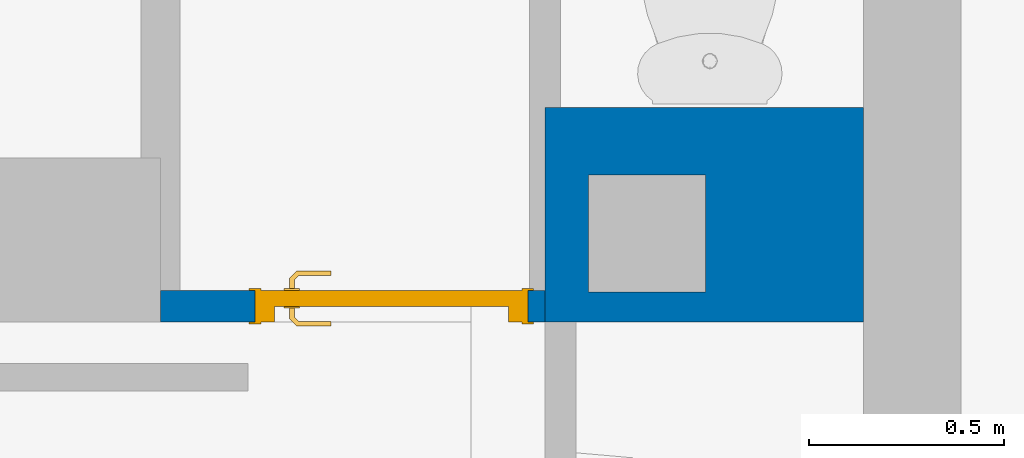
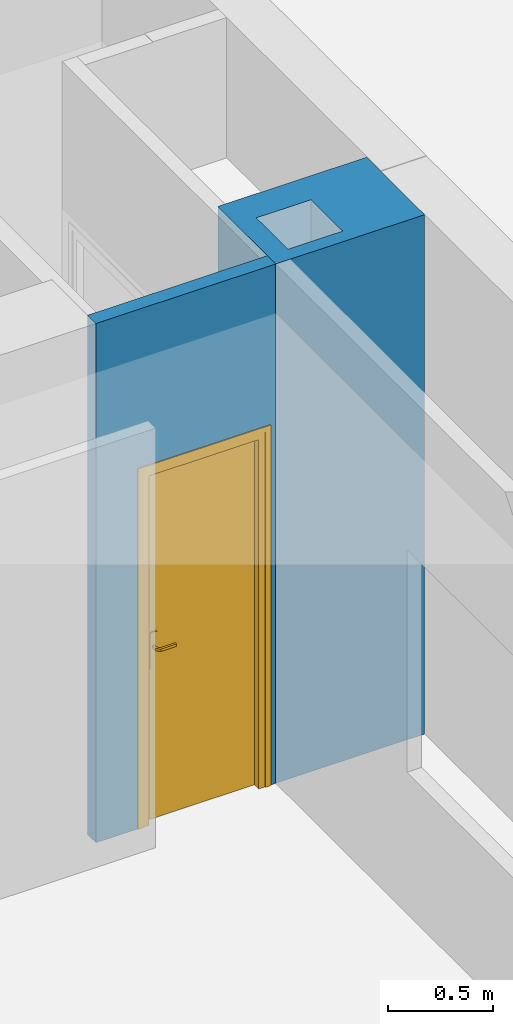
# One storey, part 46 of 97: 2 walls, 1 door, 2 openings.
"""IFC4 building model written with IfcOpenShell, lengths in metres."""

from ifc_helpers import new_model, entity, si_unit, converted_unit, derived_unit, direction, frame, origin, place, context, subcontext, project, spatial, indexed_curve, outline, extrude, polygons, source, transform, mapped, material, material_list, layer, layer_set, constituent, constituent_set, type_object, type_shapes, element, fill, save


model = new_model("IFC4")

# Units and contexts
model_context = context("Model", 3, precision=1e-05, world=origin(), true_north=direction((6.12303176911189e-17, 1.0)))
body_context = subcontext(model_context, "Body", "Model", "MODEL_VIEW")
ifc_project = project(units=[si_unit("LENGTHUNIT", "METRE"), si_unit("AREAUNIT", "SQUARE_METRE"), si_unit("VOLUMEUNIT", "CUBIC_METRE"), converted_unit("PLANEANGLEUNIT", "DEGREE", entity("IfcRatioMeasure", 0.0174532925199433), si_unit("PLANEANGLEUNIT", "RADIAN"), dimensions=[0, 0, 0, 0, 0, 0, 0]), si_unit("MASSUNIT", "GRAM", prefix="KILO"), derived_unit("MASSDENSITYUNIT", [(si_unit("MASSUNIT", "GRAM", prefix="KILO"), 1), (si_unit("LENGTHUNIT", "METRE"), -3)]), derived_unit("MOMENTOFINERTIAUNIT", [(si_unit("LENGTHUNIT", "METRE"), 4)]), si_unit("TIMEUNIT", "SECOND"), si_unit("FREQUENCYUNIT", "HERTZ"), si_unit("THERMODYNAMICTEMPERATUREUNIT", "DEGREE_CELSIUS"), derived_unit("THERMALTRANSMITTANCEUNIT", [(si_unit("MASSUNIT", "GRAM", prefix="KILO"), 1), (si_unit("THERMODYNAMICTEMPERATUREUNIT", "KELVIN"), -1), (si_unit("TIMEUNIT", "SECOND"), -3)]), derived_unit("VOLUMETRICFLOWRATEUNIT", [(si_unit("LENGTHUNIT", "METRE"), 3), (si_unit("TIMEUNIT", "SECOND"), -1)]), si_unit("ELECTRICCURRENTUNIT", "AMPERE"), si_unit("ELECTRICVOLTAGEUNIT", "VOLT"), si_unit("POWERUNIT", "WATT"), si_unit("FORCEUNIT", "NEWTON", prefix="KILO"), si_unit("ILLUMINANCEUNIT", "LUX"), si_unit("LUMINOUSFLUXUNIT", "LUMEN"), si_unit("LUMINOUSINTENSITYUNIT", "CANDELA"), derived_unit("USERDEFINED", [(si_unit("MASSUNIT", "GRAM", prefix="KILO"), -1), (si_unit("LENGTHUNIT", "METRE"), -2), (si_unit("TIMEUNIT", "SECOND"), 3), (si_unit("LUMINOUSFLUXUNIT", "LUMEN"), 1)]), derived_unit("LINEARVELOCITYUNIT", [(si_unit("LENGTHUNIT", "METRE"), 1), (si_unit("TIMEUNIT", "SECOND"), -1)]), si_unit("PRESSUREUNIT", "PASCAL"), derived_unit("USERDEFINED", [(si_unit("LENGTHUNIT", "METRE"), -2), (si_unit("MASSUNIT", "GRAM", prefix="KILO"), 1), (si_unit("TIMEUNIT", "SECOND"), -2)]), derived_unit("LINEARFORCEUNIT", [(si_unit("MASSUNIT", "GRAM", prefix="KILO"), 1), (si_unit("LENGTHUNIT", "METRE"), 1), (si_unit("TIMEUNIT", "SECOND"), -2), (si_unit("LENGTHUNIT", "METRE"), -1)]), derived_unit("PLANARFORCEUNIT", [(si_unit("MASSUNIT", "GRAM", prefix="KILO"), 1), (si_unit("LENGTHUNIT", "METRE"), 1), (si_unit("TIMEUNIT", "SECOND"), -2), (si_unit("LENGTHUNIT", "METRE"), -2)])], contexts=[model_context])

# Site, building, storey
site_placement = place(None, origin())
site = spatial("IfcSite", under=ifc_project, at=site_placement, Name="Default", CompositionType="ELEMENT")
building_placement = place(site_placement, origin())
building = spatial("IfcBuilding", under=site, at=building_placement, Name="HOTEL CONSULAIRE BOULOGNE SUR MER", CompositionType="ELEMENT")
storey_placement = place(building_placement, frame((0.0, 0.0, 3.62152697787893)))
storey = spatial("IfcBuildingStorey", under=building, at=storey_placement, Name="Niveau 1", CompositionType="ELEMENT", Elevation=3.62152697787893)

# Wall, opening, door
ifc_material_1 = material(Name="Mur par défaut", Category="Divers")
ifc_layer_1 = layer(ifc_material_1, 0.08, Name="Mur par défaut", Category="Divers")
ifc_layer_set_1 = layer_set([ifc_layer_1], Name="Mur de base:Générique - Int. 80")
wall_type_1 = type_object("IfcWallType", Name="Mur de base:Générique - Int. 80", PredefinedType="NOTDEFINED", material=ifc_layer_set_1)
wall_1_placement = place(storey_placement, frame((10.2734778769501, -24.2027611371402, 0.0)))
wall_1 = element("IfcWall", 1, at=wall_1_placement, inside=storey, type_object=wall_type_1, material=ifc_layer_set_1, Name="Mur de base:Générique - Int. 80", ObjectType="Mur de base:Générique - Int. 80", PredefinedType="NOTDEFINED", context=body_context, shape_type="Tessellation", body=[
    polygons([(0.24199999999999, -0.0399999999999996, 5.41433564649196e-16), (0.0, -0.0399999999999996, 5.41433564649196e-16), (0.0, 0.0399999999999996, 5.41433564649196e-16), (0.0499999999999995, 0.0399999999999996, 5.41433564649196e-16), (0.24199999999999, 0.0399999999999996, 5.41433564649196e-16), (0.985999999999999, -0.0399999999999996, 3.0102145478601), (0.0, -0.0399999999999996, 3.0102145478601), (0.24199999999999, -0.0399999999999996, 2.07500000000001), (0.941999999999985, -0.0399999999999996, 2.07500000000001), (0.941999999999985, -0.0399999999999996, 5.41433564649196e-16), (0.985999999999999, -0.0399999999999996, 5.41433564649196e-16), (0.0, 0.0399999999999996, 3.0102145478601), (0.0499999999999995, 0.0399999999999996, 3.0102145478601), (0.945999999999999, 0.0399999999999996, 3.0102145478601), (0.985999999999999, 0.0399999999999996, 3.0102145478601), (0.985999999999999, 0.0399999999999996, 5.41433564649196e-16), (0.945999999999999, 0.0399999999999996, 5.41433564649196e-16), (0.941999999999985, 0.0399999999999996, 5.41433564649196e-16), (0.941999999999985, 0.0399999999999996, 2.07500000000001), (0.24199999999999, 0.0399999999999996, 2.07500000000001)], [[[4, 5, 1, 2, 3]], [[20, 19, 9, 8]], [[17, 16, 11, 10, 18]], [[2, 1, 8, 9, 10, 11, 6, 7]], [[17, 18, 19, 20, 5, 4, 3, 12, 13, 14, 15, 16]], [[6, 11, 16, 15]], [[5, 20, 8, 1]], [[7, 6, 15, 14, 13, 12]], [[2, 7, 12, 3]], [[19, 18, 10, 9]]], closed=True),
])
opening_1_placement = place(wall_1_placement, frame((0.241999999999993, -0.04, 0.0)))
opening_1 = element("IfcOpeningElement", 2, at=opening_1_placement, cuts=wall_1, Name="Int. Simple:PP (0.63m x 2.04m):1", ObjectType="Opening", PredefinedType="OPENING", context=body_context, shape_type="SweptSolid", body=[
    extrude(outline(indexed_curve([(0.0, 0.699999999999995), (0.0, 0.0), (2.07500000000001, 0.0), (2.07500000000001, 0.699999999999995), (0.0, 0.699999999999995)], self_intersect=False)), frame((0.0, 0.0, 0.0), z_axis=(0.0, 1.0, 0.0), x_axis=(0.0, 0.0, 1.0)), (0.0, 0.0, 1.0), 0.08),
])
ifc_material_2 = material(Name="Finition Peinture - Blanc satiné", Category="Peinture")
ifc_constituent_1 = constituent(ifc_material_2, Name="Finition Peinture - Blanc satiné", Category="Matériaux")
ifc_material_3 = material(Name="Bois - Panneau de porte", Category="Bois")
ifc_constituent_2 = constituent(ifc_material_3, Name="Bois - Panneau de porte", Category="Matériaux")
ifc_material_4 = material(Name="Bois - Cadre de porte", Category="Bois")
ifc_constituent_3 = constituent(ifc_material_4, Name="Bois - Cadre de porte", Category="Matériaux")
ifc_constituent_set = constituent_set(constituents=[ifc_constituent_1, ifc_constituent_2, ifc_constituent_3], Name="MaterialConstituentSet")
ifc_material_list = material_list([ifc_material_4, ifc_material_4, ifc_material_3, ifc_material_2])
door_type = type_object("IfcDoorType", Name="Int. Simple:PP (0.63m x 2.04m)", OperationType="NOTDEFINED", PredefinedType="DOOR", material=ifc_material_list)
shared_shape = source(origin(), body_context, "Body", "Tessellation", [
    polygons([(0.695000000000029, -0.00500000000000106, 0.870000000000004), (0.695000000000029, -0.00500000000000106, 1.08), (0.68535276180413, -0.00500000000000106, 1.08399601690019), (0.675000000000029, -0.00500000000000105, 1.08535898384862), (0.664647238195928, -0.00500000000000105, 1.08399601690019), (0.65500000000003, -0.00500000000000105, 1.08), (0.655000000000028, -0.00500000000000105, 0.870000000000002), (0.664647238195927, -0.00500000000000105, 0.866003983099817), (0.675000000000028, -0.00500000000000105, 0.86464101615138), (0.685352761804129, -0.00500000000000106, 0.866003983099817), (0.695000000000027, -1.06594733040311e-15, 0.870000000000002), (0.685352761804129, -1.06594733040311e-15, 0.866003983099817), (0.675000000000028, -1.05748743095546e-15, 0.86464101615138), (0.664647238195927, -1.05748743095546e-15, 0.866003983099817), (0.655000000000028, -1.04902753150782e-15, 0.870000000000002), (0.655000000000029, -1.04902753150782e-15, 1.08), (0.664647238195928, -1.05748743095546e-15, 1.08399601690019), (0.675000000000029, -1.05748743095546e-15, 1.08535898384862), (0.68535276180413, -1.06594733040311e-15, 1.08399601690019), (0.695000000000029, -1.06594733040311e-15, 1.08)], [[[1, 2, 3, 4, 5, 6, 7, 8, 9, 10]], [[20, 11, 12, 13, 14, 15, 16, 17, 18, 19]], [[10, 12, 11, 1]], [[9, 13, 12, 10]], [[8, 14, 13, 9]], [[8, 7, 15, 14]], [[15, 7, 6, 16]], [[5, 17, 16, 6]], [[4, 18, 17, 5]], [[3, 19, 18, 4]], [[3, 2, 20, 19]], [[11, 20, 2, 1]]], closed=True),
    polygons([(0.65500000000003, 0.0399999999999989, 1.08), (0.655000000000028, 0.0399999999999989, 0.870000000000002), (0.664647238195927, 0.0399999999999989, 0.866003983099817), (0.675000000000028, 0.0399999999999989, 0.86464101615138), (0.685352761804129, 0.0399999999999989, 0.866003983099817), (0.695000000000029, 0.0399999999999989, 0.870000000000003), (0.695000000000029, 0.0399999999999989, 1.08), (0.68535276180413, 0.0399999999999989, 1.08399601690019), (0.675000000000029, 0.0399999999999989, 1.08535898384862), (0.664647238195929, 0.0399999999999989, 1.08399601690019), (0.65500000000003, 0.0449999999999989, 1.08), (0.664647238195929, 0.0449999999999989, 1.08399601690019), (0.675000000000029, 0.0449999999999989, 1.08535898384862), (0.68535276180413, 0.0449999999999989, 1.08399601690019), (0.695000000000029, 0.0449999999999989, 1.08), (0.695000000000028, 0.0449999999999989, 0.870000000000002), (0.685352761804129, 0.0449999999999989, 0.866003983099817), (0.675000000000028, 0.0449999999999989, 0.86464101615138), (0.664647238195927, 0.0449999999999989, 0.866003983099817), (0.655000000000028, 0.0449999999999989, 0.870000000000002)], [[[6, 7, 8, 9, 10, 1, 2, 3, 4, 5]], [[13, 14, 15, 16, 17, 18, 19, 20, 11, 12]], [[10, 12, 11, 1]], [[9, 13, 12, 10]], [[8, 14, 13, 9]], [[8, 7, 15, 14]], [[16, 15, 7, 6]], [[5, 17, 16, 6]], [[4, 18, 17, 5]], [[3, 19, 18, 4]], [[3, 2, 20, 19]], [[20, 2, 1, 11]]], closed=True),
    polygons([(0.681000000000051, -0.00500000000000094, 1.00699999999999), (0.68100000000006, -0.00500000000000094, 0.992999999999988), (0.677025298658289, -0.00500000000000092, 0.99221955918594), (0.67297470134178, -0.0050000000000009, 0.992219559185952), (0.669000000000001, -0.00500000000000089, 0.993000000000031), (0.669000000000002, -0.00500000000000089, 1.007), (0.672974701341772, -0.0050000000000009, 1.00778044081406), (0.677025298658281, -0.00500000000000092, 1.00778044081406), (0.669000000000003, -0.0276803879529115, 1.007), (0.672974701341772, -0.0293267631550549, 1.00778044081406), (0.677025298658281, -0.0310045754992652, 1.00778044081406), (0.681000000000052, -0.0326509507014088, 1.007), (0.669000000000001, -0.0276803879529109, 0.993000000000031), (0.68100000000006, -0.0326509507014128, 0.992999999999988), (0.677025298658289, -0.0310045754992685, 0.99221955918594), (0.67297470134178, -0.0293267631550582, 0.992219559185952), (0.657652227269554, -0.0390281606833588, 1.007), (0.659298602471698, -0.0430028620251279, 1.00778044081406), (0.660976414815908, -0.0470534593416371, 1.00778044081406), (0.662622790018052, -0.0510281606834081, 1.007), (0.657652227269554, -0.0390281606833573, 0.993000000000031), (0.662622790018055, -0.0510281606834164, 0.992999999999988), (0.660976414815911, -0.047053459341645, 0.99221955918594), (0.659298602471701, -0.0430028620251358, 0.992219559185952), (0.574981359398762, -0.0510281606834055, 1.007), (0.574981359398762, -0.0470534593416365, 1.00778044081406), (0.574981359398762, -0.0430028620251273, 1.00778044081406), (0.574981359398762, -0.0390281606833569, 1.00699999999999), (0.574981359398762, -0.0390281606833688, 0.993000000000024), (0.574981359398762, -0.0430028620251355, 0.992219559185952), (0.574981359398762, -0.0470534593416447, 0.99221955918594), (0.574981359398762, -0.0510281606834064, 0.992999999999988), (0.622692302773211, -0.051028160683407, 1.007), (0.617139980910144, -0.045028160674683, 1.0078786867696), (0.616316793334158, -0.039028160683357, 1.007), (0.622692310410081, -0.0510281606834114, 0.992999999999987), (0.617139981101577, -0.0450281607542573, 0.992121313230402), (0.61631679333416, -0.039028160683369, 0.993000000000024)], [[[7, 8, 1, 2, 3, 4, 5, 6]], [[17, 21, 38, 29, 28, 35]], [[1, 8, 11, 12]], [[8, 7, 10, 18, 19, 11]], [[7, 6, 9, 10]], [[13, 9, 6, 5]], [[25, 26, 27, 28, 29, 30, 31, 32]], [[4, 16, 13, 5]], [[4, 3, 15, 23, 24, 16]], [[2, 14, 15, 3]], [[12, 14, 2, 1]], [[12, 11, 19, 20]], [[10, 9, 17, 18]], [[21, 17, 9, 13]], [[13, 16, 24, 21]], [[15, 14, 22, 23]], [[20, 22, 14, 12]], [[34, 26, 33]], [[33, 26, 25]], [[33, 20, 19]], [[18, 35, 34]], [[35, 18, 17]], [[28, 27, 35]], [[34, 27, 26]], [[34, 35, 27]], [[34, 33, 19]], [[18, 34, 19]], [[37, 30, 38]], [[31, 37, 36]], [[24, 38, 21]], [[30, 29, 38]], [[31, 36, 32]], [[36, 23, 22]], [[37, 23, 36]], [[37, 24, 23]], [[37, 38, 24]], [[30, 37, 31]], [[22, 20, 33, 25, 32, 36]]], closed=True),
    polygons([(0.66900000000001, 0.0449999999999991, 0.993000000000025), (0.672974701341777, 0.0449999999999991, 0.992219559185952), (0.677025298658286, 0.0449999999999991, 0.99221955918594), (0.681000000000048, 0.044999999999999, 0.992999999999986), (0.681000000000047, 0.044999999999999, 1.007), (0.677025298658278, 0.0449999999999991, 1.00778044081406), (0.672974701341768, 0.0449999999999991, 1.00778044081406), (0.668999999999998, 0.0449999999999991, 1.007), (0.668999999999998, 0.067485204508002, 1.007), (0.668999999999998, 0.0674852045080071, 0.993000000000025), (0.681000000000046, 0.0724557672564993, 1.007), (0.677025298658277, 0.070809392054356, 1.00778044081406), (0.672974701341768, 0.0691315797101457, 1.00778044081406), (0.681000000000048, 0.0724557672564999, 0.992999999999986), (0.672974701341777, 0.0691315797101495, 0.992219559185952), (0.677025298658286, 0.0708093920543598, 0.99221955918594), (0.65751471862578, 0.0789704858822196, 1.007), (0.657514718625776, 0.0789704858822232, 0.993000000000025), (0.662485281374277, 0.0909704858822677, 1.007), (0.660838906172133, 0.0869957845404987, 1.00778044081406), (0.659161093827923, 0.0829451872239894, 1.00778044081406), (0.662485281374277, 0.0909704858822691, 0.992999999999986), (0.659161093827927, 0.0829451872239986, 0.992219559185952), (0.660838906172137, 0.0869957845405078, 0.99221955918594), (0.574954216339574, 0.0789704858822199, 0.993000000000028), (0.574954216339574, 0.0789704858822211, 1.007), (0.574954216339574, 0.0829451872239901, 1.00778044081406), (0.574954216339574, 0.0869957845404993, 1.00778044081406), (0.574954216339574, 0.0909704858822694, 1.007), (0.574954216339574, 0.0909704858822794, 0.992999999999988), (0.574954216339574, 0.086995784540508, 0.99221955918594), (0.574954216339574, 0.0829451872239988, 0.992219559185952), (0.62255479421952, 0.0909704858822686, 1.007), (0.617057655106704, 0.0849704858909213, 1.0078786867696), (0.616234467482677, 0.0789704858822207, 1.007), (0.622554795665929, 0.0909704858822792, 0.992999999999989), (0.617057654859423, 0.0849704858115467, 0.992121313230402), (0.616234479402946, 0.0789704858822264, 0.993000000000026)], [[[2, 3, 4, 5, 6, 7, 8, 1]], [[18, 17, 35, 26, 25, 38]], [[9, 10, 1, 8]], [[27, 28, 29, 30, 31, 32, 25, 26]], [[7, 13, 9, 8]], [[7, 6, 12, 20, 21, 13]], [[5, 11, 12, 6]], [[11, 5, 4, 14]], [[4, 3, 16, 14]], [[3, 2, 15, 23, 24, 16]], [[2, 1, 10, 15]], [[17, 18, 10, 9]], [[9, 13, 21, 17]], [[11, 19, 20, 12]], [[22, 19, 11, 14]], [[14, 16, 24, 22]], [[15, 10, 18, 23]], [[34, 27, 35]], [[28, 34, 33]], [[21, 35, 17]], [[27, 26, 35]], [[28, 33, 29]], [[33, 20, 19]], [[34, 20, 33]], [[34, 21, 20]], [[34, 35, 21]], [[27, 34, 28]], [[19, 22, 36, 30, 29, 33]], [[37, 31, 36]], [[36, 31, 30]], [[36, 22, 24]], [[23, 38, 37]], [[38, 23, 18]], [[25, 32, 38]], [[37, 32, 31]], [[37, 38, 32]], [[37, 36, 24]], [[23, 37, 24]]], closed=True),
    polygons([(0.735000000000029, 0.04, 2.04), (0.735000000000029, 0.04, 0.0), (0.105000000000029, 0.04, 0.0), (0.105000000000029, 0.04, 2.04), (0.735000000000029, 3.38395977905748e-17, 2.04), (0.105000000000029, 3.38395977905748e-17, 2.04), (0.105000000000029, 3.38395977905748e-17, 0.0), (0.735000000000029, 3.38395977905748e-17, 0.0)], [[[4, 1, 2, 3]], [[5, 6, 7, 8]], [[5, 1, 4, 6]], [[6, 4, 3, 7]], [[7, 3, 2, 8]], [[8, 2, 1, 5]]], closed=True),
    polygons([(0.770000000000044, -8.45989944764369e-18, 0.0), (0.735000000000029, -8.45989944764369e-18, 0.0), (0.735000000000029, 0.0400000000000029, 0.0), (0.720000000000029, 0.0400000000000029, 0.0), (0.720000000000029, 0.080000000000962, 0.0), (0.770000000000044, 0.080000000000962, 0.0), (0.770000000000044, 0.080000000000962, 2.07500000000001), (0.770000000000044, -8.45989944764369e-18, 2.07500000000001), (0.720000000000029, 0.080000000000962, 2.025), (0.120000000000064, 0.080000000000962, 2.025), (0.120000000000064, 0.080000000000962, -1.79828591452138e-24), (0.0700000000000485, 0.080000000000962, 1.16645647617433e-24), (0.0700000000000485, 0.080000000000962, 2.07500000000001), (0.720000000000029, 0.0400000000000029, 2.025), (0.735000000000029, 0.0400000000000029, 2.04), (0.105000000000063, 0.0400000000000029, 2.04), (0.105000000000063, 0.0400000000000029, 1.46419166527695e-24), (0.120000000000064, 0.0400000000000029, 1.49408317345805e-25), (0.120000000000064, 0.0400000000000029, 2.025), (0.735000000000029, -8.45989944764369e-18, 2.04), (0.0700000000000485, -8.45989944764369e-18, 2.07500000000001), (0.0700000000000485, -8.45989944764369e-18, 4.03399441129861e-24), (0.105000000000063, -8.45989944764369e-18, 0.0), (0.105000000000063, -8.45989944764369e-18, 2.04)], [[[5, 6, 1, 2, 3, 4]], [[17, 23, 22, 12, 11, 18]], [[19, 10, 9, 14]], [[16, 15, 20, 24]], [[7, 8, 1, 6]], [[18, 11, 10, 19]], [[17, 16, 24, 23]], [[9, 10, 11, 12, 13, 7, 6, 5]], [[9, 5, 4, 14]], [[15, 3, 2, 20]], [[12, 22, 21, 13]], [[19, 14, 4, 3, 15, 16, 17, 18]], [[24, 20, 2, 1, 8, 21, 22, 23]], [[13, 21, 8, 7]]], closed=True),
    polygons([(0.755000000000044, 0.080000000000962, 0.0), (0.755000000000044, 0.085000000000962, 0.0), (0.785000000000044, 0.085000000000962, 0.0), (0.785000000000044, 0.080000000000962, 0.0), (0.785000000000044, 0.080000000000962, 2.09000000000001), (0.0550000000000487, 0.080000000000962, 2.09000000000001), (0.0550000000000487, 0.080000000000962, 1.09662010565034e-24), (0.0850000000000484, 0.080000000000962, -5.40476896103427e-24), (0.0850000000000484, 0.080000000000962, 2.06000000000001), (0.755000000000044, 0.080000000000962, 2.06000000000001), (0.785000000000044, 0.085000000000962, 2.09000000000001), (0.755000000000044, 0.085000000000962, 2.06000000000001), (0.0850000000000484, 0.085000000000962, 2.06000000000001), (0.0850000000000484, 0.085000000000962, 3.01102000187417e-24), (0.0550000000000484, 0.085000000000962, 9.94022571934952e-24), (0.0550000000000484, 0.085000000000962, 2.09000000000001)], [[[2, 3, 4, 1]], [[7, 15, 14, 8]], [[13, 12, 10, 9]], [[9, 10, 1, 4, 5, 6, 7, 8]], [[11, 5, 4, 3]], [[8, 14, 13, 9]], [[12, 13, 14, 15, 16, 11, 3, 2]], [[12, 2, 1, 10]], [[15, 7, 6, 16]], [[16, 6, 5, 11]]], closed=True),
    polygons([(0.755000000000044, -0.00499999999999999, 0.0), (0.755000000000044, -8.45989944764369e-18, 0.0), (0.785000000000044, -8.45989944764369e-18, 0.0), (0.785000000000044, -0.00499999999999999, 0.0), (0.0850000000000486, -0.00499999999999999, -5.41433564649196e-16), (0.0550000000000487, -0.00499999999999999, -5.41433564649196e-16), (0.0550000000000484, -8.45989944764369e-18, -5.41433564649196e-16), (0.0850000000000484, -8.45989944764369e-18, -5.41433564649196e-16), (0.785000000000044, -0.00499999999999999, 2.09000000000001), (0.0550000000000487, -0.00499999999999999, 2.09000000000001), (0.0850000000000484, -0.00499999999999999, 2.06000000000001), (0.755000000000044, -0.00499999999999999, 2.06000000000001), (0.785000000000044, -8.45989944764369e-18, 2.09000000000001), (0.755000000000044, -8.45989944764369e-18, 2.06000000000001), (0.0850000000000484, -8.45989944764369e-18, 2.06000000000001), (0.0550000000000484, -8.45989944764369e-18, 2.09000000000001)], [[[2, 3, 4, 1]], [[6, 7, 8, 5]], [[15, 14, 12, 11]], [[11, 12, 1, 4, 9, 10, 6, 5]], [[9, 4, 3, 13]], [[5, 8, 15, 11]], [[14, 15, 8, 7, 16, 13, 3, 2]], [[12, 14, 2, 1]], [[7, 6, 10, 16]], [[16, 10, 9, 13]]], closed=True),
])
type_shapes(door_type, [shared_shape])
door_placement = place(opening_1_placement, frame((0.77000000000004, 0.0799999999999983, 0.0), z_axis=(0.0, 0.0, 1.0), x_axis=(-1.0, 0.0, 0.0)))
door = element("IfcDoor", 3, at=door_placement, inside=storey, type_object=door_type, material=ifc_constituent_set, Name="Int. Simple:PP (0.63m x 2.04m)", ObjectType="Int. Simple:PP (0.63m x 2.04m)", OperationType="NOTDEFINED", OverallHeight=2.07500000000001, OverallWidth=0.699999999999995, PredefinedType="DOOR", context=body_context, shape_type="MappedRepresentation", body=[
    mapped(shared_shape, transform((0.0, 0.0, 0.0), scale=1.0)),
])
fill(opening_1, door)

# Wall, opening
ifc_layer_2 = layer(ifc_material_1, 0.55, Name="Mur par défaut", Category="Divers")
ifc_layer_set_2 = layer_set([ifc_layer_2], Name="Mur de base:Générique - Int.550")
wall_type_2 = type_object("IfcWallType", Name="Mur de base:Générique - Int.550", PredefinedType="NOTDEFINED", material=ifc_layer_set_2)
wall_2_placement = place(storey_placement, frame((11.2594778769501, -23.9677611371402, 0.0)))
wall_2 = element("IfcWall", 4, at=wall_2_placement, inside=storey, type_object=wall_type_2, material=ifc_layer_set_2, Name="Mur de base:Générique - Int.550", ObjectType="Mur de base:Générique - Int.550", PredefinedType="NOTDEFINED", context=body_context, shape_type="SweptSolid", body=[
    extrude(outline(indexed_curve([(-0.247142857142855, -0.566410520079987), (0.302857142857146, -0.566410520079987), (0.302857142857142, 0.210589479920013), (0.302857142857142, 0.250589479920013), (-0.167142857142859, 0.250589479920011), (-0.247142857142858, 0.250589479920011), (-0.247142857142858, 0.170463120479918), (-0.247142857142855, -0.566410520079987)], self_intersect=False)), frame((0.250589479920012, -0.0278571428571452, 0.0), z_axis=(0.0, 0.0, 1.0), x_axis=(0.0, 1.0, 0.0)), (0.0, 0.0, 1.0), 3.01021454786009),
])
opening_2_placement = place(storey_placement, frame((11.2594778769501, -23.9677611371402, 0.0)))
element("IfcOpeningElement", 5, at=opening_2_placement, cuts=wall_2, Name="Mur de base:Générique - Int.550:1", ObjectType="Opening", PredefinedType="OPENING", context=body_context, shape_type="SweptSolid", body=[
    extrude(outline(indexed_curve([(-0.150000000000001, -0.150000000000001), (0.150000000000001, -0.150000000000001), (0.150000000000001, 0.150000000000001), (-0.150000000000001, 0.150000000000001), (-0.150000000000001, -0.150000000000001)], self_intersect=False)), frame((0.26142545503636, -0.048148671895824, 0.0), z_axis=(0.0, 0.0, 1.0), x_axis=(0.0, 1.0, 0.0)), (0.0, 0.0, 1.0), 3.01021454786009),
])

save(model, "model.ifc")
